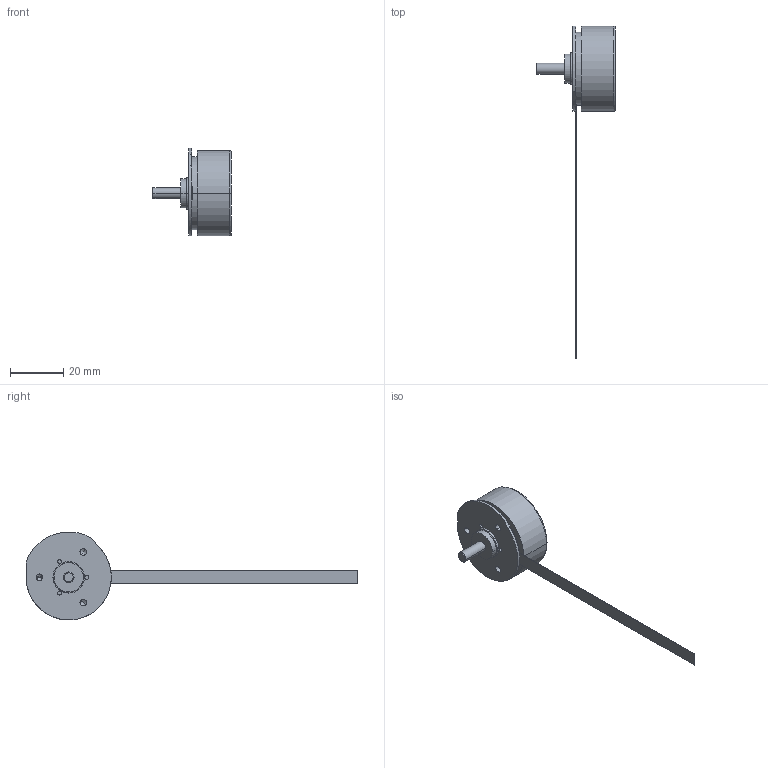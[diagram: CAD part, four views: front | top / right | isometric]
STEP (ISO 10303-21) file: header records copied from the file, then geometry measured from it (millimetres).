
FILE_DESCRIPTION((''),'2;1');
FILE_NAME('339271_EC32FL_15W_B','2016-10-10T',('mmagpetk'),(''),'CREO PARAMETRIC BY PTC INC, 2016050','CREO PARAMETRIC BY PTC INC, 2016050','');
FILE_SCHEMA(('CONFIG_CONTROL_DESIGN'));
Length unit declared in the file: millimetre
Products named in the file (1): 339271_EC32FL_15W_B
Bounding box: 29.9 x 124.5 x 32.98 mm (x, y, z)
Volume: 12782.6 mm3; surface area: 5012.4 mm2
Topology: 1 solids, 1 shells, 56 faces, 124 edges, 75 vertices
Faces by surface type: cylinder 24, plane 18, torus 8, cone 6
Entity records: 1993 total; most frequent: DIRECTION 300, CARTESIAN_POINT 249, ORIENTED_EDGE 236, AXIS2_PLACEMENT_3D 126, PRESENTATION_STYLE_ASSIGNMENT 119, STYLED_ITEM 119, CURVE_STYLE 118, EDGE_CURVE 118
